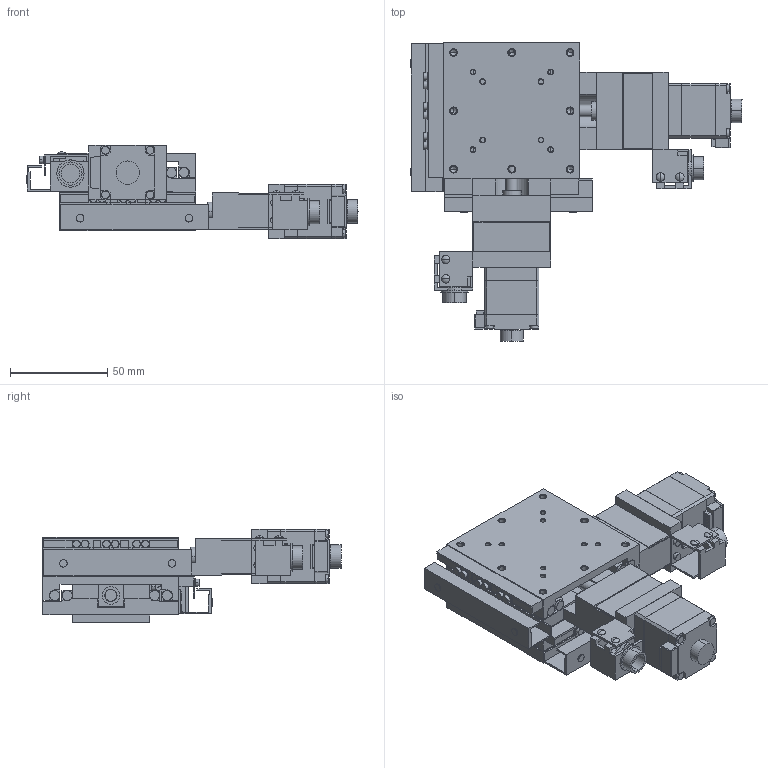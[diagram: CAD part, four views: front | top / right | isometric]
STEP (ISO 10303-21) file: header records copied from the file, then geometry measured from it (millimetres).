
FILE_DESCRIPTION(('STEP AP203'),'1');
FILE_NAME('C:/3D-Trans/3D_PMG715M-R□-E+240122.step','2024-03-14T05:48:15',(' '),(' '),'Spatial InterOp 3D',' ',' ');
FILE_SCHEMA(('CONFIG_CONTROL_DESIGN'));
Length unit declared in the file: millimetre
Products named in the file (12): 1; 2; 3; 4; 5; 6; 7; 8; 9; 10; 11; 12
Bounding box: 170.9 x 153.5 x 48 mm (x, y, z)
Volume: 259305.8 mm3; surface area: 119514.6 mm2
Topology: 12 solids, 12 shells, 1320 faces, 3388 edges, 2142 vertices
Faces by surface type: plane 764, cylinder 396, cone 152, sphere 8
Entity records: 40244 total; most frequent: DIRECTION 7056, CARTESIAN_POINT 6814, ORIENTED_EDGE 6680, EDGE_CURVE 3340, AXIS2_PLACEMENT_3D 2384, LINE 2288, VECTOR 2288, VERTEX_POINT 2142
